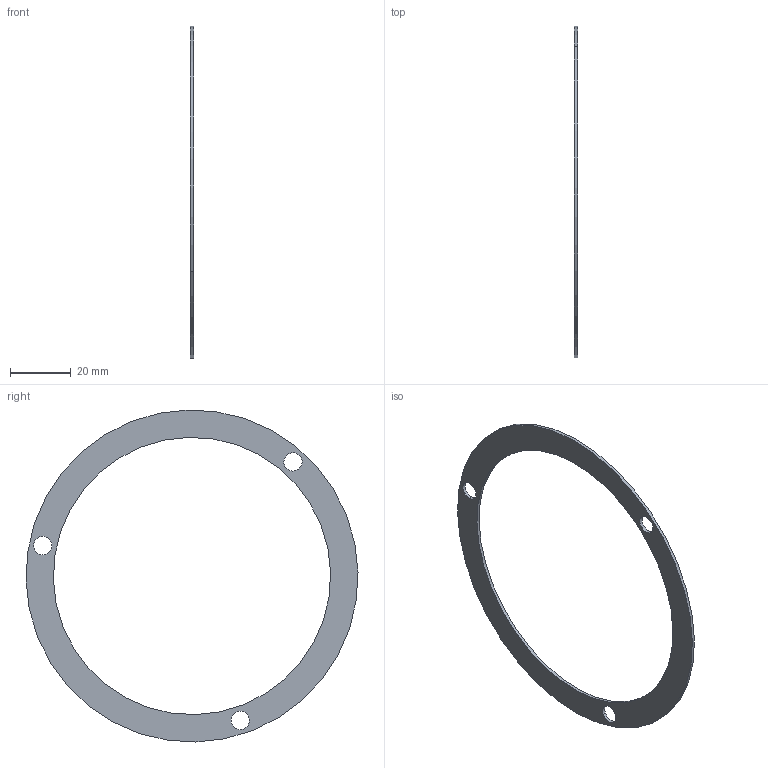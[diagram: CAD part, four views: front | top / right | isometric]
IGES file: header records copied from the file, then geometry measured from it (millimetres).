
Start section: START RECORD GO HERE.
Global section: file name: JOINT PLAT.igs; native system: IBM CATIA IGES - CATIA Version 5 Release 18 ; preprocessor: CATIA Version 5 Release 18 ; author: Propriétaire; organization: FUJITSU-79916BB; date: 20090111.191159; units: millimetre
Bounding box: 1 x 108.97 x 108.97 mm (x, y, z)
Surface area: 6170.1 mm2 (no closed solid volume)
Topology: 0 solids, 0 shells, 12 faces, 60 edges, 60 vertices
Faces by surface type: revolution 10, plane 2
